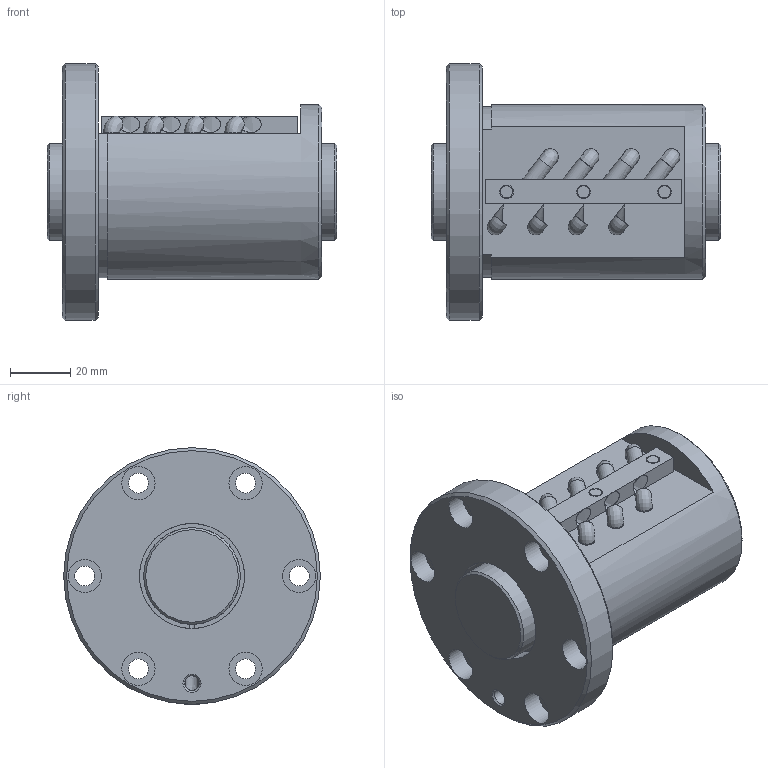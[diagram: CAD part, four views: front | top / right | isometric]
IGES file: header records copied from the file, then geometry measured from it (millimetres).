
Start section: Data from Parasolid IGES Translator 26.0.171, Copyright(c) 2006 Siemens PLM Software. All Rights Reserved.
Global section: file name: BIF3205V-10RRG0+96LC0_000.igs; native system: By Siemens PLM Incorporated; preprocessor: XPlus GENERIC/IGES 26.0.171; author: Noname; organization: Noname; date: 20240715.081829; units: millimetre
Bounding box: 96 x 85 x 85 mm (x, y, z)
Surface area: 49905.1 mm2 (no closed solid volume)
Topology: 0 solids, 0 shells, 130 faces, 590 edges, 562 vertices
Faces by surface type: revolution 77, extrusion 53
